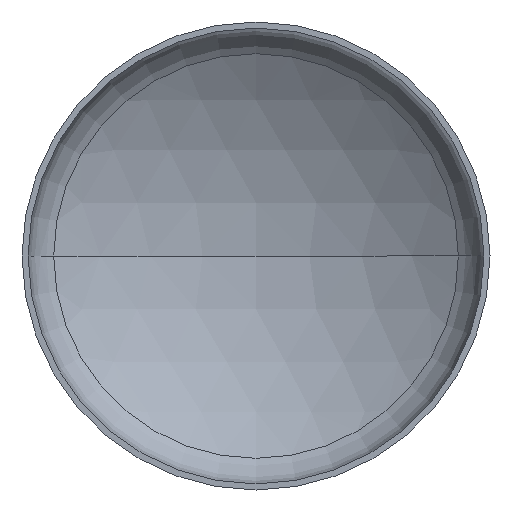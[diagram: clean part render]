
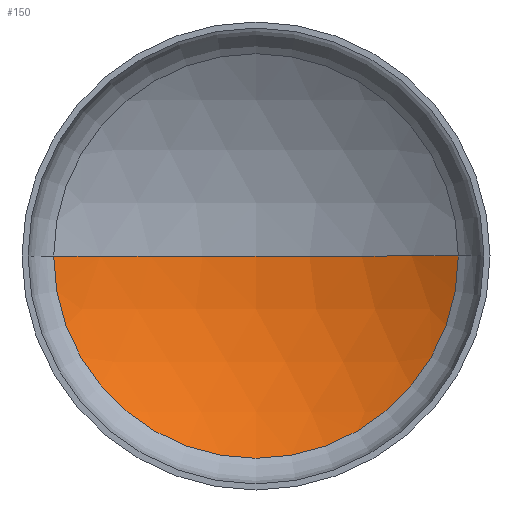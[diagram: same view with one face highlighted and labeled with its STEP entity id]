
A CAD part, front view. The second image highlights one B-rep face of the part: STEP entity #150.
In plain terms, the highlighted spherical face has radius 119.2 mm.
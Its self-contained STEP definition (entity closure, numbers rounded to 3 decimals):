
#9 = CARTESIAN_POINT ( 'NONE',  ( 0., -79.2, 0. ) ) ;
#15 = EDGE_CURVE ( 'NONE', #314, #223, #155, .T. ) ;
#21 = EDGE_CURVE ( 'NONE', #346, #314, #227, .T. ) ;
#36 = DIRECTION ( 'NONE',  ( -1., 0., 0. ) ) ;
#56 = DIRECTION ( 'NONE',  ( -1., 0., 0. ) ) ;
#64 = ORIENTED_EDGE ( 'NONE', *, *, #15, .F. ) ;
#97 = CARTESIAN_POINT ( 'NONE',  ( 0., -79.2, 0. ) ) ;
#118 = DIRECTION ( 'NONE',  ( 0., 1., 0. ) ) ;
#123 = AXIS2_PLACEMENT_3D ( 'NONE', #9, #323, #36 ) ;
#130 = AXIS2_PLACEMENT_3D ( 'NONE', #143, #118, #56 ) ;
#131 = DIRECTION ( 'NONE',  ( -1., 0., 0. ) ) ;
#143 = CARTESIAN_POINT ( 'NONE',  ( 0., 19.682, 0. ) ) ;
#150 = ADVANCED_FACE ( 'NONE', ( #306 ), #274, .F. ) ;
#153 = CARTESIAN_POINT ( 'NONE',  ( 0., 40., 0. ) ) ;
#155 = CIRCLE ( 'NONE', #123, 119.2 ) ;
#214 = EDGE_LOOP ( 'NONE', ( #355, #365, #64 ) ) ;
#220 = EDGE_CURVE ( 'NONE', #346, #223, #332, .T. ) ;
#222 = DIRECTION ( 'NONE',  ( 1., 0., 0. ) ) ;
#223 = VERTEX_POINT ( 'NONE', #153 ) ;
#227 = CIRCLE ( 'NONE', #130, 66.566 ) ;
#246 = CARTESIAN_POINT ( 'NONE',  ( 0., -79.2, 0. ) ) ;
#274 = SPHERICAL_SURFACE ( 'NONE', #310, 119.2 ) ;
#277 = DIRECTION ( 'NONE',  ( 0., 0., 1. ) ) ;
#285 = DIRECTION ( 'NONE',  ( 0., 0., 1. ) ) ;
#306 = FACE_OUTER_BOUND ( 'NONE', #214, .T. ) ;
#310 = AXIS2_PLACEMENT_3D ( 'NONE', #97, #285, #131 ) ;
#314 = VERTEX_POINT ( 'NONE', #327 ) ;
#322 = CARTESIAN_POINT ( 'NONE',  ( 66.566, 19.682, 0. ) ) ;
#323 = DIRECTION ( 'NONE',  ( 0., 0., -1. ) ) ;
#327 = CARTESIAN_POINT ( 'NONE',  ( -66.566, 19.682, 0. ) ) ;
#332 = CIRCLE ( 'NONE', #377, 119.2 ) ;
#346 = VERTEX_POINT ( 'NONE', #322 ) ;
#355 = ORIENTED_EDGE ( 'NONE', *, *, #21, .F. ) ;
#365 = ORIENTED_EDGE ( 'NONE', *, *, #220, .T. ) ;
#377 = AXIS2_PLACEMENT_3D ( 'NONE', #246, #277, #222 ) ;
